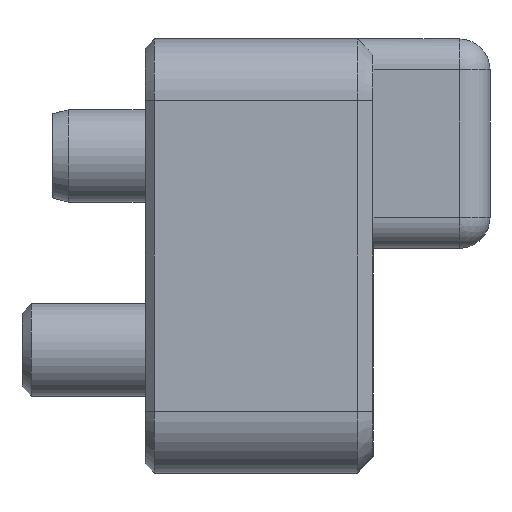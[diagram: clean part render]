
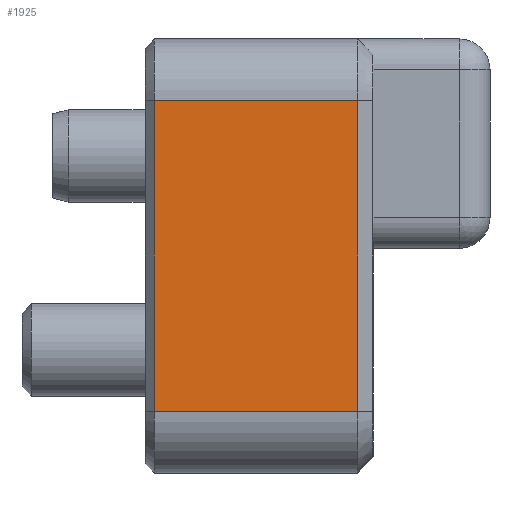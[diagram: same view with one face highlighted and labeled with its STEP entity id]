
A CAD part, left-side view. The second image highlights one B-rep face of the part: STEP entity #1925.
In plain terms, the highlighted planar face has unit normal (-1, 0, 0).
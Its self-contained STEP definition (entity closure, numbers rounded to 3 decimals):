
#101=PLANE('',#2133);
#211=FACE_OUTER_BOUND('',#340,.T.);
#340=EDGE_LOOP('',(#1535,#1536,#1537,#1538));
#435=LINE('',#3012,#588);
#465=LINE('',#3109,#618);
#506=LINE('',#3203,#659);
#507=LINE('',#3205,#660);
#588=VECTOR('',#2414,10.);
#618=VECTOR('',#2506,10.);
#659=VECTOR('',#2601,10.);
#660=VECTOR('',#2604,10.);
#848=VERTEX_POINT('',#3004);
#850=VERTEX_POINT('',#3010);
#883=VERTEX_POINT('',#3099);
#885=VERTEX_POINT('',#3105);
#1038=EDGE_CURVE('',#850,#848,#435,.T.);
#1085=EDGE_CURVE('',#883,#885,#465,.T.);
#1135=EDGE_CURVE('',#885,#850,#506,.T.);
#1136=EDGE_CURVE('',#848,#883,#507,.T.);
#1535=ORIENTED_EDGE('',*,*,#1038,.F.);
#1536=ORIENTED_EDGE('',*,*,#1135,.F.);
#1537=ORIENTED_EDGE('',*,*,#1085,.F.);
#1538=ORIENTED_EDGE('',*,*,#1136,.F.);
#1925=ADVANCED_FACE('',(#211),#101,.T.);
#2133=AXIS2_PLACEMENT_3D('',#3204,#2602,#2603);
#2414=DIRECTION('',(0.,0.,-1.));
#2506=DIRECTION('',(0.,0.,1.));
#2601=DIRECTION('',(0.,-1.,0.));
#2602=DIRECTION('center_axis',(-1.,0.,0.));
#2603=DIRECTION('ref_axis',(0.,-1.,0.));
#2604=DIRECTION('',(0.,1.,0.));
#3004=CARTESIAN_POINT('',(-15.5,-3.9,2.));
#3010=CARTESIAN_POINT('',(-15.5,-3.9,12.1));
#3012=CARTESIAN_POINT('',(-15.5,-3.9,0.));
#3099=CARTESIAN_POINT('',(-15.5,2.7,2.));
#3105=CARTESIAN_POINT('',(-15.5,2.7,12.1));
#3109=CARTESIAN_POINT('',(-15.5,2.7,0.));
#3203=CARTESIAN_POINT('',(-15.5,0.335,12.1));
#3204=CARTESIAN_POINT('Origin',(-15.5,3.,0.));
#3205=CARTESIAN_POINT('',(-15.5,0.335,2.));
